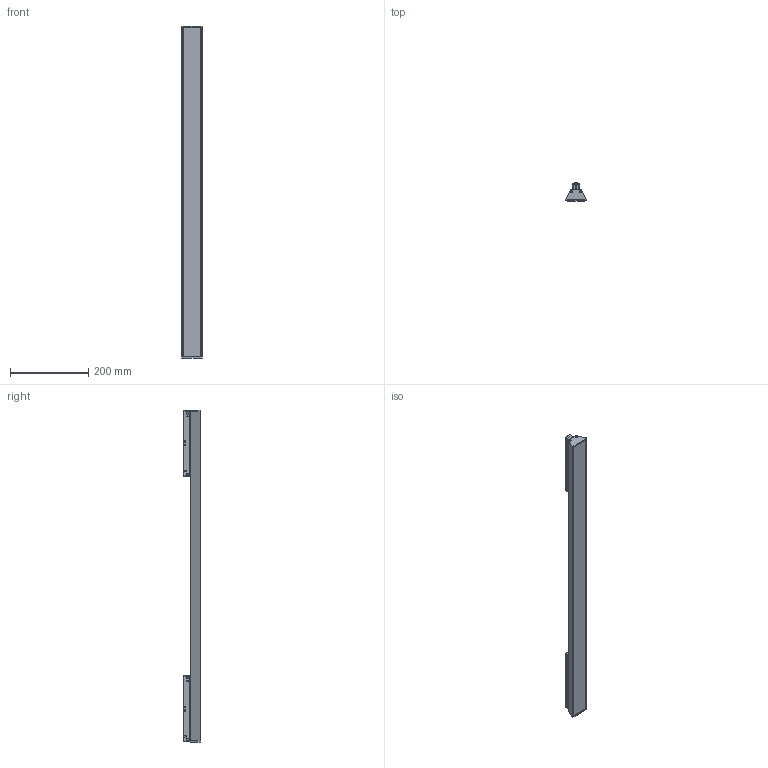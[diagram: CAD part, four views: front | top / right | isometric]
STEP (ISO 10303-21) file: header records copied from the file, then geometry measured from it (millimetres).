
FILE_DESCRIPTION (( 'STEP AP214' ), '1' );
FILE_NAME ('Diffused Module CAD.STEP', '2019-01-11T04:52:12', ( '' ), ( '' ), 'SwSTEP 2.0', 'SolidWorks 2017', '' );
FILE_SCHEMA (( 'AUTOMOTIVE_DESIGN' ));
Length unit declared in the file: millimetre
Products named in the file (5): Zelle Linear solid cad; Diffused Module endcap V2; flat head screw_am_B18.6.7M - M3 x 0.5 x 5 Type I Cross Recessed FHMS --5N; Adaptor 9529-166; Diffused Module CAD
Assembly tree (9 placements, depth 2):
  Diffused Module CAD
    Zelle Linear solid cad
    Diffused Module endcap V2  x2
    flat head screw_am_B18.6.7M - M3 x 0.5 x 5 Type I Cross Recessed FHMS --5N  x4
    Adaptor 9529-166  x2
Bounding box: 52 x 45.75 x 846.05 mm (x, y, z)
Volume: 906917.6 mm3; surface area: 182492.5 mm2
Topology: 15 solids, 15 shells, 3511 faces, 9647 edges, 6138 vertices
Faces by surface type: plane 2157, cylinder 776, cone 312, bspline 266
Entity records: 64577 total; most frequent: CARTESIAN_POINT 20183, ORIENTED_EDGE 9590, DIRECTION 7683, EDGE_CURVE 4795, VECTOR 3209, LINE 3209, VERTEX_POINT 3070, AXIS2_PLACEMENT_3D 2237
